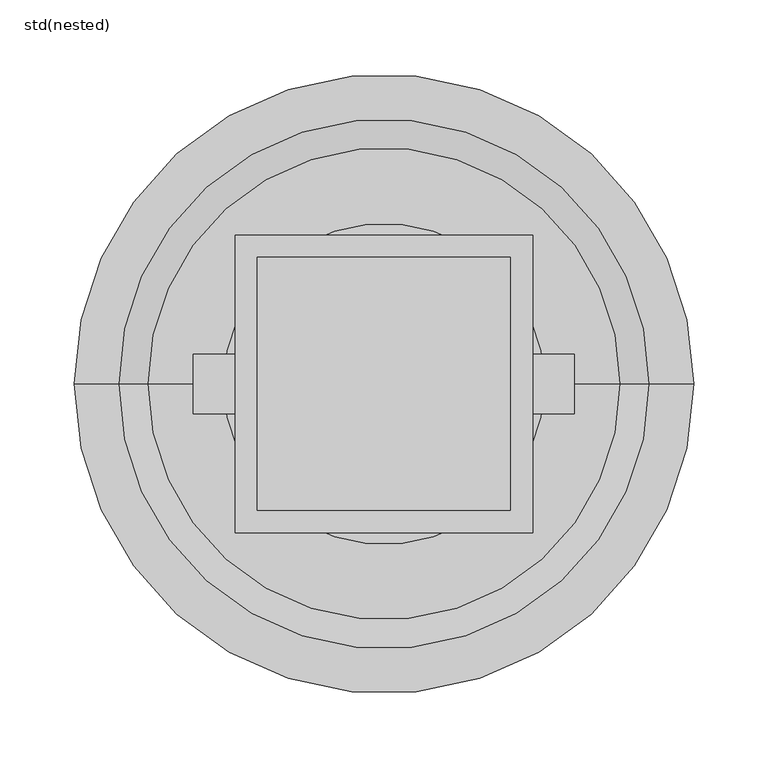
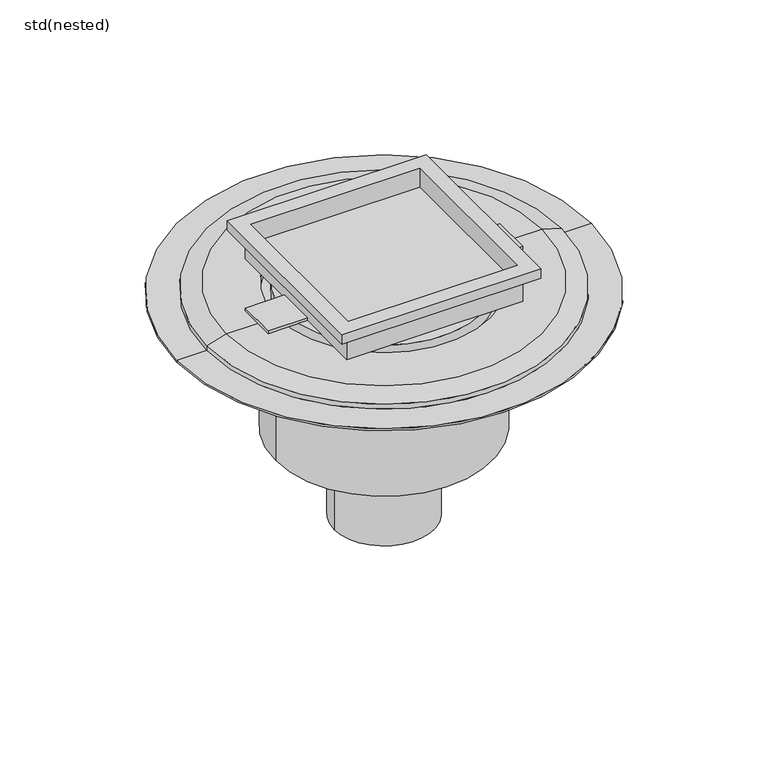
"""IFC4 building model written with IfcOpenShell, lengths in millimetres: sanitary terminal geometry, ZZZ_do not use_PF_ST_Finor stainless steel_round_ACO : std(nested)."""

import ifcopenshell
import ifcopenshell.guid

model = None  # the IFC model being written
_history = None  # IfcOwnerHistory: only IFC2X3 demands one
_inside = {}  # id of a spatial element -> (the spatial element, [elements in it])
_under = {}  # id of a project, library or spatial element -> (it, [spatial elements below it])
_declared = {}  # id of a project -> (the project, [libraries it declares])
_typed = {}  # id of a type object -> (the type object, [elements of that type])
_made_of = {}  # id of a material, layer set ... -> (it, [elements and type objects made of it])


def new_model(schema):
    """Start an empty IFC model of exactly this schema.

    Asked for "IFC4X3", IfcOpenShell would pick the latest addendum, in which some entities
    have other attributes; the version numbers below select the first issue.
    IFC2X3 requires an IfcOwnerHistory on every rooted entity: one is made here for all.
    """
    global model, _history
    if schema == "IFC4X3":
        model = ifcopenshell.file(schema_version=(4, 3, 0, 0))
    else:
        model = ifcopenshell.file(schema=schema)
    _inside.clear()
    _under.clear()
    _declared.clear()
    _typed.clear()
    _made_of.clear()
    _history = None
    if model.schema == "IFC2X3":
        org = make("IfcOrganization", Name="unknown")
        user = make(
            "IfcPersonAndOrganization",
            ThePerson=make("IfcPerson", FamilyName="unknown"),
            TheOrganization=org,
        )
        app = make(
            "IfcApplication",
            ApplicationDeveloper=org,
            Version="unknown",
            ApplicationFullName="unknown",
            ApplicationIdentifier="unknown",
        )
        _history = make(
            "IfcOwnerHistory",
            OwningUser=user,
            OwningApplication=app,
            ChangeAction="ADDED",
            CreationDate=0,
        )
    return model


def make(cls, **values):
    """One entity of the class cls with the attributes given. An attribute that is None is left unset."""
    return model.create_entity(
        cls, **{name: value for name, value in values.items() if value is not None}
    )


def rooted(cls, **values):
    """An entity with a GlobalId (a new one), such as an element, a storey or a relation."""
    return make(cls, GlobalId=ifcopenshell.guid.new(), OwnerHistory=_history, **values)


def si_unit(unit_type, name, prefix=None):
    """IfcSIUnit, for example si_unit("LENGTHUNIT", "METRE", prefix="MILLI")."""
    return make("IfcSIUnit", UnitType=unit_type, Prefix=prefix, Name=name)


def assignment(units):
    """IfcUnitAssignment: the units of a project."""
    return None if units is None else make("IfcUnitAssignment", Units=units)


def point(xyz):
    """IfcCartesianPoint."""
    return None if xyz is None else make("IfcCartesianPoint", Coordinates=xyz)


def direction(xyz):
    """IfcDirection."""
    return None if xyz is None else make("IfcDirection", DirectionRatios=xyz)


def frame(location, z_axis=None, x_axis=None):
    """IfcAxis2Placement3D, a coordinate frame: its origin and axes. An axis left out is left unset."""
    return make(
        "IfcAxis2Placement3D",
        Location=point(location),
        Axis=direction(z_axis),
        RefDirection=direction(x_axis),
    )


def origin():
    """The frame at (0, 0, 0) with its axes left unset."""
    return frame((0.0, 0.0, 0.0))


def place(relative_to, where):
    """IfcLocalPlacement: puts the frame where relative to a parent placement (None: the world)."""
    return make(
        "IfcLocalPlacement", PlacementRelTo=relative_to, RelativePlacement=where
    )


def context(
    kind, dimensions, precision=None, world=None, true_north=None, identifier=None
):
    """IfcGeometricRepresentationContext, for example the 3D "Model" context."""
    return make(
        "IfcGeometricRepresentationContext",
        ContextIdentifier=identifier,
        ContextType=kind,
        CoordinateSpaceDimension=dimensions,
        Precision=precision,
        WorldCoordinateSystem=world,
        TrueNorth=true_north,
    )


def project(units=None, contexts=None):
    """IfcProject with its units and contexts."""
    return rooted(
        "IfcProject",
        Name="project",
        RepresentationContexts=contexts,
        UnitsInContext=assignment(units),
    )


def spatial(cls, under=None, at=None, **own):
    """A site, building, storey or space (cls), placed at a placement, below another one or the project."""
    s = rooted(cls, ObjectPlacement=at, **own)
    if under is not None:
        _under.setdefault(under.id(), (under, []))[1].append(s)
    return s


def polyline(points):
    """IfcPolyline through the points."""
    return make("IfcPolyline", Points=[point(p) for p in points])


def circle_curve(where, radius):
    """IfcCircle in the frame where."""
    return make("IfcCircle", Position=where, Radius=radius)


def outline(outer, holes=None, kind="AREA"):
    """IfcArbitraryClosedProfileDef: a profile drawn as a closed curve; with holes, ...WithVoids."""
    if holes is None:
        return make("IfcArbitraryClosedProfileDef", ProfileType=kind, OuterCurve=outer)
    return make(
        "IfcArbitraryProfileDefWithVoids",
        ProfileType=kind,
        OuterCurve=outer,
        InnerCurves=holes,
    )


def extrude(swept, where, along, depth):
    """IfcExtrudedAreaSolid: the profile swept, set in the frame where, extruded along a direction by depth."""
    return make(
        "IfcExtrudedAreaSolid",
        SweptArea=swept,
        Position=where,
        ExtrudedDirection=direction(along),
        Depth=depth,
    )


def faces_of(points, faces, orient=None, outer=None):
    """IfcFace entities. A face is a list of loops; a loop is a list of indices into points, from 0.

    orient and outer hold one flag for each loop. By default every Orientation is true, the
    first loop of a face is its IfcFaceOuterBound and the others are IfcFaceBound.
    """
    made = []
    for i, loops in enumerate(faces):
        bounds = []
        for j, loop in enumerate(loops):
            is_outer = j == 0 if outer is None else outer[i][j]
            bounds.append(
                make(
                    "IfcFaceOuterBound" if is_outer else "IfcFaceBound",
                    Bound=make("IfcPolyLoop", Polygon=[points[k] for k in loop]),
                    Orientation=True if orient is None else orient[i][j],
                )
            )
        made.append(make("IfcFace", Bounds=bounds))
    return made


def faceted_brep(points, faces, orient=None, outer=None, voids=None):
    """IfcFacetedBrep: a solid bounded by flat faces; with voids (closed shells), ...WithVoids."""
    shared = [point(p) for p in points]
    hull = make("IfcClosedShell", CfsFaces=faces_of(shared, faces, orient, outer))
    if voids is None:
        return make("IfcFacetedBrep", Outer=hull)
    return make(
        "IfcFacetedBrepWithVoids",
        Outer=hull,
        Voids=[
            make(cls, CfsFaces=faces_of(shared, fs, o, b)) for cls, fs, o, b in voids
        ],
    )


def shape(context_of_items, identifier, shape_type, items):
    """IfcShapeRepresentation: the items that make up one representation, for example the "Body"."""
    return make(
        "IfcShapeRepresentation",
        ContextOfItems=context_of_items,
        RepresentationIdentifier=identifier,
        RepresentationType=shape_type,
        Items=items,
    )


def source(mapping_origin, context_of_items, identifier, shape_type, items):
    """IfcRepresentationMap: a shape defined once, which mapped items show again and again."""
    return make(
        "IfcRepresentationMap",
        MappingOrigin=mapping_origin,
        MappedRepresentation=shape(context_of_items, identifier, shape_type, items),
    )


def transform(
    local_origin,
    x_axis=None,
    y_axis=None,
    z_axis=None,
    scale=None,
    scale2=None,
    scale3=None,
    uniform=True,
):
    """IfcCartesianTransformationOperator3D, or its non-uniform kind. x_axis, y_axis, z_axis: its Axis1, 2, 3."""
    if uniform:
        return make(
            "IfcCartesianTransformationOperator3D",
            Axis1=direction(x_axis),
            Axis2=direction(y_axis),
            LocalOrigin=point(local_origin),
            Scale=scale,
            Axis3=direction(z_axis),
        )
    return make(
        "IfcCartesianTransformationOperator3DnonUniform",
        Axis1=direction(x_axis),
        Axis2=direction(y_axis),
        LocalOrigin=point(local_origin),
        Scale=scale,
        Axis3=direction(z_axis),
        Scale2=scale2,
        Scale3=scale3,
    )


def mapped(mapping_source, mapping_target):
    """IfcMappedItem: shows the shape of a source again, moved by a transform."""
    return make(
        "IfcMappedItem", MappingSource=mapping_source, MappingTarget=mapping_target
    )


def made_of(thing, what):
    """Note that an element or type object is made of a material, layer set ...; save() writes the relation."""
    if what is not None:
        _made_of.setdefault(what.id(), (what, []))[1].append(thing)
    return thing


def element(
    cls,
    number,
    at=None,
    inside=None,
    cuts=None,
    type_object=None,
    material=None,
    context=None,
    identifier="Body",
    shape_type=None,
    held_by="IfcProductDefinitionShape",
    body=None,
    shapes=None,
    **own,
):
    """One element of the class cls, such as IfcWall. Its Tag is "e" and its number.

    at: its placement. inside: the storey or other place that contains it. cuts: it is an
    opening in that element (IfcRelVoidsElement). A single representation is given by context,
    identifier, shape_type and body (its items); several are given by shapes. held_by: the class
    of the entity that holds the representations. save() writes the other relations.
    """
    e = rooted(cls, Tag="e%d" % number, ObjectPlacement=at, **own)
    if body is not None:
        shapes = [shape(context, identifier, shape_type, body)]
    if shapes is not None:
        e.Representation = make(held_by, Representations=shapes)
    if inside is not None:
        _inside.setdefault(inside.id(), (inside, []))[1].append(e)
    if cuts is not None:
        rooted(
            "IfcRelVoidsElement", RelatingBuildingElement=cuts, RelatedOpeningElement=e
        )
    if type_object is not None:
        _typed.setdefault(type_object.id(), (type_object, []))[1].append(e)
    return made_of(e, material)


def aggregate(whole, parts):
    """IfcRelAggregates: a whole, such as a stair, and the parts it consists of."""
    return rooted("IfcRelAggregates", RelatingObject=whole, RelatedObjects=parts)


def save(model, path):
    """Write the relations noted so far, then the file.

    IfcRelAggregates (storeys below a building ...), IfcRelContainedInSpatialStructure (elements
    in a storey), IfcRelDefinesByType, IfcRelAssociatesMaterial and IfcRelDeclares: one each for
    every whole, place, type object, material and project.
    """
    for whole, parts in _under.values():
        aggregate(whole, parts)
    for where, things in _inside.values():
        rooted(
            "IfcRelContainedInSpatialStructure",
            RelatedElements=things,
            RelatingStructure=where,
        )
    for kind, things in _typed.values():
        rooted("IfcRelDefinesByType", RelatedObjects=things, RelatingType=kind)
    for what, things in _made_of.values():
        rooted("IfcRelAssociatesMaterial", RelatedObjects=things, RelatingMaterial=what)
    for by, libraries in _declared.values():
        rooted("IfcRelDeclares", RelatingContext=by, RelatedDefinitions=libraries)
    model.write(path)


def plane_surface(at):
    """IfcPlane: the flat surface through the origin of the frame at, square to its z axis."""
    return make("IfcPlane", Position=at)


def cylinder_surface(at, radius):
    """IfcCylindricalSurface: all points at the distance radius from the z axis of the frame at."""
    return make("IfcCylindricalSurface", Position=at, Radius=radius)


def revolved_surface(curve, axis_point, axis_direction):
    """IfcSurfaceOfRevolution: the curve turned about the line through axis_point along axis_direction."""
    return make(
        "IfcSurfaceOfRevolution",
        SweptCurve=make("IfcArbitraryOpenProfileDef", ProfileType="CURVE", Curve=curve),
        AxisPosition=make("IfcAxis1Placement", Location=point(axis_point), Axis=direction(axis_direction)),
    )


def advanced_brep(points, edges, surfaces, faces):
    """IfcAdvancedBrep: a solid bounded by faces that lie on surfaces and meet in shared edges.

    An edge is (start, end): straight between two places in points (the first is 0);
    or (start, end, curve); or (start, end, curve, False) where it runs against its curve.
    A face is (place in surfaces, loops), or (place, loops, False) where it looks against
    its surface's normal. A loop lists edges by number (the first is 1), with a minus sign
    where the edge is run from its end to its start. The first loop is the outer one.
    """
    corners = [point(p) for p in points]
    vertices = [make("IfcVertexPoint", VertexGeometry=c) for c in corners]
    made = []
    for start, end, *more in edges:
        made.append(
            make(
                "IfcEdgeCurve",
                EdgeStart=vertices[start],
                EdgeEnd=vertices[end],
                EdgeGeometry=more[0] if more else make("IfcPolyline", Points=[corners[start], corners[end]]),
                SameSense=more[1] if len(more) > 1 else True,
            )
        )
    hull = []
    for where, loops, *sense in faces:
        bounds = []
        for j, loop in enumerate(loops):
            ring = [make("IfcOrientedEdge", EdgeElement=made[abs(k) - 1], Orientation=k > 0) for k in loop]
            bounds.append(
                make(
                    "IfcFaceOuterBound" if j == 0 else "IfcFaceBound",
                    Bound=make("IfcEdgeLoop", EdgeList=ring),
                    Orientation=True,
                )
            )
        hull.append(make("IfcAdvancedFace", Bounds=bounds, FaceSurface=surfaces[where], SameSense=sense[0] if sense else True))
    return make("IfcAdvancedBrep", Outer=make("IfcClosedShell", CfsFaces=hull))


def std_nested_368b0972(model_context):
    return source(origin(), model_context, "Body", "SolidModel", [
        advanced_brep(
        [(108.0, 0.0, -39.0), (-108.0, 0.0, -39.0), (-108.0, 0.0, -50.0), (108.0, 0.0, -50.0), (158.4241188, 0.0, -39.0), (-158.4241188, 0.0, -39.0), (178.0, 0.0, -45.0), (-178.0, 0.0, -45.0), (178.0, 0.0, -50.0), (-178.0, 0.0, -50.0), (208.0, 0.0, -50.0), (-208.0, 0.0, -50.0), (208.0, 0.0, -52.0), (-208.0, 0.0, -52.0), (109.0, 0.0, -52.0), (-109.0, 0.0, -52.0), (0.0, 0.0, -50.0), (109.0, 0.0, -191.0), (-109.0, 0.0, -191.0), (50.0, 0.0, -191.0), (-50.0, 0.0, -191.0), (50.0, 0.0, -285.0), (-50.0, 0.0, -285.0), (0.0, 0.0, -285.0)],
        [
            (0, 1, circle_curve(frame((0.0, 0.0, -39.0), z_axis=(0.0, 0.0, 1.0), x_axis=(-1.0, 0.0, 0.0)), 108.0)),
            (1, 2),
            (2, 3, circle_curve(frame((0.0, 0.0, -50.0), z_axis=(0.0, 0.0, -1.0), x_axis=(-1.0, 0.0, 0.0)), 108.0)),
            (3, 0),
            (1, 0, circle_curve(frame((0.0, 0.0, -39.0), z_axis=(0.0, 0.0, 1.0), x_axis=(-1.0, 0.0, 0.0)), 108.0)),
            (3, 2, circle_curve(frame((0.0, 0.0, -50.0), z_axis=(0.0, 0.0, -1.0), x_axis=(-1.0, 0.0, 0.0)), 108.0)),
            (0, 4),
            (4, 5, circle_curve(frame((0.0, 0.0, -39.0), z_axis=(0.0, 0.0, 1.0), x_axis=(-1.0, 0.0, 0.0)), 158.4241188)),
            (5, 1),
            (5, 4, circle_curve(frame((0.0, 0.0, -39.0), z_axis=(0.0, 0.0, 1.0), x_axis=(-1.0, 0.0, 0.0)), 158.4241188)),
            (4, 6),
            (6, 7, circle_curve(frame((0.0, 0.0, -45.0), z_axis=(0.0, 0.0, 1.0), x_axis=(-1.0, 0.0, 0.0)), 178.0)),
            (7, 5),
            (7, 6, circle_curve(frame((0.0, 0.0, -45.0), z_axis=(0.0, 0.0, 1.0), x_axis=(-1.0, 0.0, 0.0)), 178.0)),
            (6, 8),
            (8, 9, circle_curve(frame((0.0, 0.0, -50.0), z_axis=(0.0, 0.0, 1.0), x_axis=(-1.0, 0.0, 0.0)), 178.0)),
            (9, 7),
            (9, 8, circle_curve(frame((0.0, 0.0, -50.0), z_axis=(0.0, 0.0, 1.0), x_axis=(-1.0, 0.0, 0.0)), 178.0)),
            (8, 10),
            (10, 11, circle_curve(frame((0.0, 0.0, -50.0), z_axis=(0.0, 0.0, 1.0), x_axis=(-1.0, 0.0, 0.0)), 208.0)),
            (11, 9),
            (11, 10, circle_curve(frame((0.0, 0.0, -50.0), z_axis=(0.0, 0.0, 1.0), x_axis=(-1.0, 0.0, 0.0)), 208.0)),
            (10, 12),
            (12, 13, circle_curve(frame((0.0, 0.0, -52.0), z_axis=(0.0, 0.0, 1.0), x_axis=(-1.0, 0.0, 0.0)), 208.0)),
            (13, 11),
            (13, 12, circle_curve(frame((0.0, 0.0, -52.0), z_axis=(0.0, 0.0, 1.0), x_axis=(-1.0, 0.0, 0.0)), 208.0)),
            (12, 14),
            (14, 15, circle_curve(frame((0.0, 0.0, -52.0), z_axis=(0.0, 0.0, 1.0), x_axis=(-1.0, 0.0, 0.0)), 109.0)),
            (15, 13),
            (15, 14, circle_curve(frame((0.0, 0.0, -52.0), z_axis=(0.0, 0.0, 1.0), x_axis=(-1.0, 0.0, 0.0)), 109.0)),
            (2, 16),
            (16, 3),
            (17, 18, circle_curve(frame((0.0, 0.0, -191.0), z_axis=(0.0, 0.0, 1.0), x_axis=(-1.0, 0.0, 0.0)), 109.0)),
            (18, 15),
            (14, 17),
            (18, 17, circle_curve(frame((0.0, 0.0, -191.0), z_axis=(0.0, 0.0, 1.0), x_axis=(-1.0, 0.0, 0.0)), 109.0)),
            (17, 19),
            (19, 20, circle_curve(frame((0.0, 0.0, -191.0), z_axis=(0.0, 0.0, 1.0), x_axis=(-1.0, 0.0, 0.0)), 50.0)),
            (20, 18),
            (20, 19, circle_curve(frame((0.0, 0.0, -191.0), z_axis=(0.0, 0.0, 1.0), x_axis=(-1.0, 0.0, 0.0)), 50.0)),
            (19, 21),
            (21, 22, circle_curve(frame((0.0, 0.0, -285.0), z_axis=(0.0, 0.0, 1.0), x_axis=(-1.0, 0.0, 0.0)), 50.0)),
            (22, 20),
            (22, 21, circle_curve(frame((0.0, 0.0, -285.0), z_axis=(0.0, 0.0, 1.0), x_axis=(-1.0, 0.0, 0.0)), 50.0)),
            (21, 23),
            (23, 22),
        ],
        [
            revolved_surface(polyline([(-108.0, 0.0, -50.0), (-108.0, 0.0, -39.0)]), (0.0, 0.0, 339.5879297), (0.0, 0.0, -1.0)),
            plane_surface(frame((0.0, 0.0, -39.0), z_axis=(0.0, 0.0, 1.0), x_axis=(-1.0, 0.0, 0.0))),
            revolved_surface(polyline([(-158.4241188, 0.0, -39.0), (-178.0, 0.0, -45.0)]), (0.0, 0.0, 339.5879297), (0.0, 0.0, -1.0)),
            cylinder_surface(frame((0.0, 0.0, 339.5879297), z_axis=(0.0, 0.0, -1.0), x_axis=(-1.0, 0.0, 0.0)), 178.0),
            plane_surface(frame((0.0, 0.0, -50.0), z_axis=(0.0, 0.0, 1.0), x_axis=(-1.0, 0.0, 0.0))),
            cylinder_surface(frame((0.0, 0.0, 339.5879297), z_axis=(0.0, 0.0, -1.0), x_axis=(-1.0, 0.0, 0.0)), 208.0),
            plane_surface(frame((0.0, 0.0, -52.0), z_axis=(0.0, 0.0, -1.0), x_axis=(-1.0, 0.0, 0.0))),
            cylinder_surface(frame((0.0, 0.0, 420.4474494), z_axis=(0.0, 0.0, -1.0), x_axis=(-1.0, 0.0, 0.0)), 109.0),
            plane_surface(frame((0.0, 0.0, -191.0), z_axis=(0.0, 0.0, -1.0), x_axis=(-1.0, 0.0, 0.0))),
            cylinder_surface(frame((0.0, 0.0, 420.4474494), z_axis=(0.0, 0.0, -1.0), x_axis=(-1.0, 0.0, 0.0)), 50.0),
            plane_surface(frame((0.0, 0.0, -285.0), z_axis=(0.0, 0.0, -1.0), x_axis=(-1.0, 0.0, 0.0))),
        ],
        [
            (0, [[1, 2, 3, 4]]),
            (0, [[5, -4, 6, -2]]),
            (1, [[-1, 7, 8, 9]]),
            (1, [[-5, -9, 10, -7]]),
            (2, [[-8, 11, 12, 13]]),
            (2, [[-10, -13, 14, -11]]),
            (3, [[-12, 15, 16, 17]]),
            (3, [[-14, -17, 18, -15]]),
            (4, [[-16, 19, 20, 21]]),
            (4, [[-18, -21, 22, -19]]),
            (5, [[-20, 23, 24, 25]]),
            (5, [[-22, -25, 26, -23]]),
            (6, [[-24, 27, 28, 29]]),
            (6, [[-26, -29, 30, -27]]),
            (4, [[31, 32, -3]]),
            (4, [[-31, -6, -32]]),
            (7, [[33, 34, -28, 35]]),
            (7, [[36, -35, -30, -34]]),
            (8, [[-33, 37, 38, 39]]),
            (8, [[-36, -39, 40, -37]]),
            (9, [[-38, 41, 42, 43]]),
            (9, [[-40, -43, 44, -41]]),
            (10, [[-42, 45, 46]]),
            (10, [[-44, -46, -45]]),
        ],
    ),
        advanced_brep(
        [(99.0, 0.0, -37.5), (-99.0, 0.0, -37.5), (0.0, 0.0, -37.5), (99.0, 0.0, -185.0), (-99.0, 0.0, -185.0), (0.0, 0.0, -185.0)],
        [
            (0, 1, circle_curve(frame((0.0, 0.0, -37.5), z_axis=(0.0, 0.0, 1.0), x_axis=(-1.0, 0.0, 0.0)), 99.0)),
            (1, 2),
            (2, 0),
            (1, 0, circle_curve(frame((0.0, 0.0, -37.5), z_axis=(0.0, 0.0, 1.0), x_axis=(-1.0, 0.0, 0.0)), 99.0)),
            (3, 4, circle_curve(frame((0.0, 0.0, -185.0), z_axis=(0.0, 0.0, 1.0), x_axis=(-1.0, 0.0, 0.0)), 99.0)),
            (4, 1),
            (0, 3),
            (4, 3, circle_curve(frame((0.0, 0.0, -185.0), z_axis=(0.0, 0.0, 1.0), x_axis=(-1.0, 0.0, 0.0)), 99.0)),
            (5, 4),
            (3, 5),
        ],
        [
            plane_surface(frame((0.0, 0.0, -37.5), z_axis=(0.0, 0.0, 1.0), x_axis=(-1.0, 0.0, 0.0))),
            cylinder_surface(frame((0.0, 0.0, -173.8765316), z_axis=(0.0, 0.0, -1.0), x_axis=(-1.0, 0.0, 0.0)), 99.0),
            plane_surface(frame((0.0, 0.0, -185.0), z_axis=(0.0, 0.0, -1.0), x_axis=(-1.0, 0.0, 0.0))),
        ],
        [
            (0, [[1, 2, 3]]),
            (0, [[4, -3, -2]]),
            (1, [[5, 6, -1, 7]]),
            (1, [[8, -7, -4, -6]]),
            (2, [[9, -5, 10]]),
            (2, [[-10, -8, -9]]),
        ],
    ),
        extrude(outline(polyline([(128.0, 20.0), (128.0, -20.0), (88.0, -20.0), (88.0, 20.0), (128.0, 20.0)])), frame((0.0, 0.0, -37.5), z_axis=(0.0, 0.0, 1.0), x_axis=(1.0, 0.0, 0.0)), (0.0, 0.0, 1.0), 3.0),
        extrude(outline(polyline([(-88.0, 20.0), (-88.0, -20.0), (-128.0, -20.0), (-128.0, 20.0), (-88.0, 20.0)])), frame((0.0, 0.0, -37.5), z_axis=(0.0, 0.0, 1.0), x_axis=(1.0, 0.0, 0.0)), (0.0, 0.0, 1.0), 3.0),
        faceted_brep([(88.5, 88.5, -37.5), (88.5, -88.5, -37.5), (-88.5, -88.5, -37.5), (-88.5, 88.5, -37.5), (100.0, 100.0, 0.0), (-100.0, 100.0, 0.0), (-100.0, -100.0, 0.0), (100.0, -100.0, 0.0), (-85.0, 85.0, 0.0), (85.0, 85.0, 0.0), (85.0, -85.0, 0.0), (-85.0, -85.0, 0.0), (-88.5, 88.5, -10.0), (88.5, 88.5, -10.0), (-88.5, -88.5, -10.0), (88.5, -88.5, -10.0), (100.0, 100.0, -10.0), (100.0, -100.0, -10.0), (-100.0, -100.0, -10.0), (-100.0, 100.0, -10.0), (85.0, 85.0, -20.0), (-85.0, 85.0, -20.0), (-85.0, -85.0, -20.0), (85.0, -85.0, -20.0)], [[[0, 1, 2, 3]], [[4, 5, 6, 7], [8, 9, 10, 11]], [[0, 3, 12, 13]], [[3, 2, 14, 12]], [[2, 1, 15, 14]], [[1, 0, 13, 15]], [[16, 17, 18, 19], [13, 12, 14, 15]], [[16, 19, 5, 4]], [[19, 18, 6, 5]], [[18, 17, 7, 6]], [[17, 16, 4, 7]], [[20, 21, 22, 23]], [[21, 20, 9, 8]], [[22, 21, 8, 11]], [[23, 22, 11, 10]], [[20, 23, 10, 9]]]),
    ])


if __name__ == "__main__":
    model = new_model("IFC4")
    model_context = context("Model", 3, world=origin())
    ifc_project = project(units=[si_unit("LENGTHUNIT", "METRE", prefix="MILLI")], contexts=[model_context])
    site = spatial("IfcSite", under=ifc_project)
    building = spatial("IfcBuilding", under=site)
    placement = place(None, origin())
    std_nested_shape = std_nested_368b0972(model_context)
    element("IfcSanitaryTerminal", 1, ObjectType="ZZZ_do not use_PF_ST_Finor stainless steel_round_ACO : std(nested)", at=placement, inside=building, context=model_context, shape_type="MappedRepresentation", body=[
        mapped(std_nested_shape, transform((0.0, 0.0, 0.0), x_axis=(1.0, 0.0, 0.0), y_axis=(0.0, 1.0, 0.0), z_axis=(0.0, 0.0, 1.0))),
    ])
    save(model, "model.ifc")
